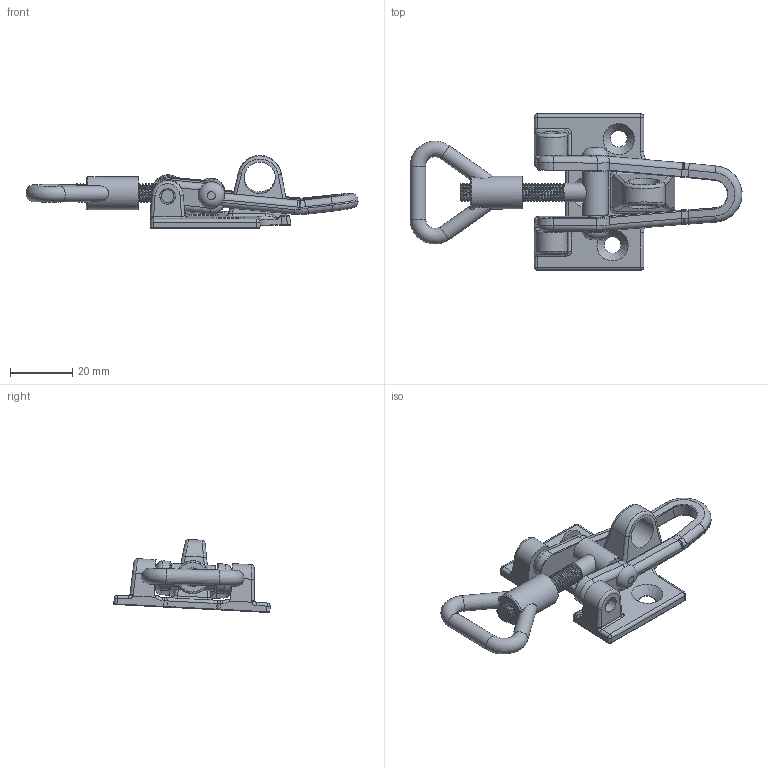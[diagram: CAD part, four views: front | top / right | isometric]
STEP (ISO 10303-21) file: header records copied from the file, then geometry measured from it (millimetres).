
FILE_DESCRIPTION(/* description */ ('Unknown'),/* implementation_level */ '2;1');
FILE_NAME(/* name */ '3931',/* time_stamp */ '2025-09-09T08:19:13+02:00',/* author */ ('Unknown'),/* organization */ ('Unknown'),/* preprocessor_version */ 'ST-DEVELOPER v16.7',/* originating_system */ 'DEX',/* authorisation */ $);
FILE_SCHEMA (('AUTOMOTIVE_DESIGN {1 0 10303 214 3 1 1}'));
Length unit declared in the file: millimetre
Products named in the file (6): 3931; Grundplatte mit Halter; Griff; Gewindebolzen klein; Halter; Stift
Assembly tree (5 placements, depth 2):
  3931
    Grundplatte mit Halter
    Griff
    Gewindebolzen klein
    Halter
    Stift
Bounding box: 106.27 x 50.03 x 23.37 mm (x, y, z)
Volume: 15917 mm3; surface area: 12554.1 mm2
Topology: 5 solids, 5 shells, 309 faces, 768 edges, 462 vertices
Faces by surface type: cylinder 146, plane 65, bspline 45, torus 42, sphere 8, cone 3
Full cylindrical faces by diameter (mm): 4 x3, 4.2 x2, 4.5 x1, 4.917 x1, 5 x5, 5.3 x3, 6 x33, 8.2 x1, 10 x1, 10.5 x1
Entity records: 15191 total; most frequent: CARTESIAN_POINT 8982, DIRECTION 1297, ORIENTED_EDGE 1232, EDGE_CURVE 616, AXIS2_PLACEMENT_3D 545, VERTEX_POINT 382, EDGE_LOOP 328, FACE_BOUND 328
